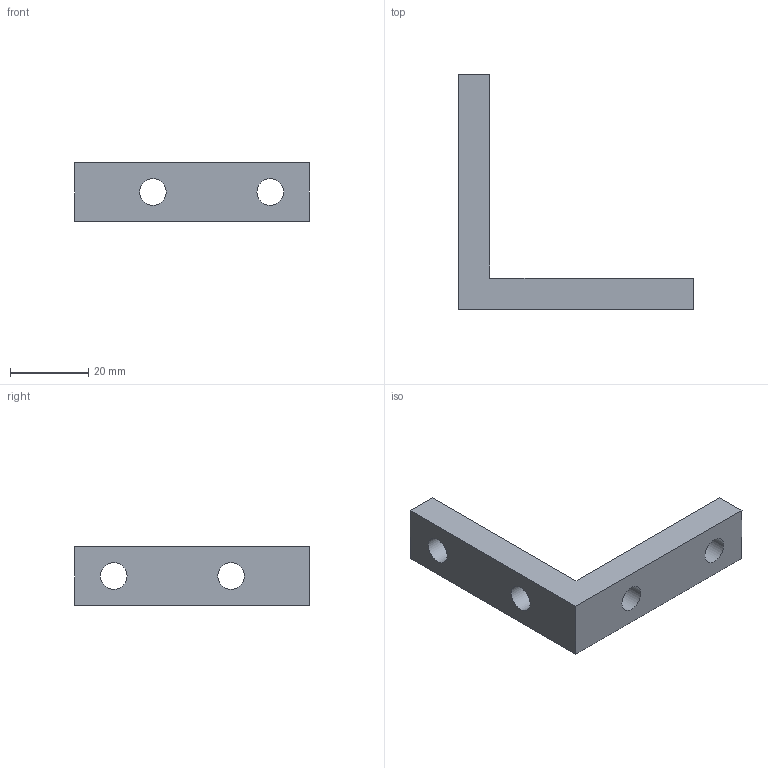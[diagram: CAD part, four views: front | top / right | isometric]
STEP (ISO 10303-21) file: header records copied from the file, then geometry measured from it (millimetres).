
FILE_DESCRIPTION(/* description */ (''),/* implementation_level */ '2;1');
FILE_NAME(/* name */ 'Pos159-1017-1 Connector 90 M8 VERT-Aluminium-niet behandelen-12st',/* time_stamp */ '2024-08-06T11:49:43+02:00',/* author */ (''),/* organization */ (''),/* preprocessor_version */ 'ST-DEVELOPER v16.5',/* originating_system */ 'HiCAD 2024 2901.2 Build 361',/* authorisation */ '');
FILE_SCHEMA (('AUTOMOTIVE_DESIGN { 1 0 10303 214 1 1 1 1 }'));
Length unit declared in the file: millimetre
Products named in the file (1): Pos159-1017-1 Connector 90 M8 VERT-Aluminium-niet behandelen-12st
Bounding box: 60 x 60 x 15 mm (x, y, z)
Volume: 12277.9 mm3; surface area: 5785.1 mm2
Topology: 1 solids, 1 shells, 12 faces, 34 edges, 24 vertices
Faces by surface type: plane 8, cylinder 4
Full cylindrical faces by diameter (mm): 6.8 x4
Entity records: 636 total; most frequent: DIRECTION 58, CARTESIAN_POINT 58, PRESENTATION_STYLE_ASSIGNMENT 53, COLOUR_RGB 53, DRAUGHTING_PRE_DEFINED_CURVE_FONT 52, CURVE_STYLE 52, OVER_RIDING_STYLED_ITEM 52, ORIENTED_EDGE 52
